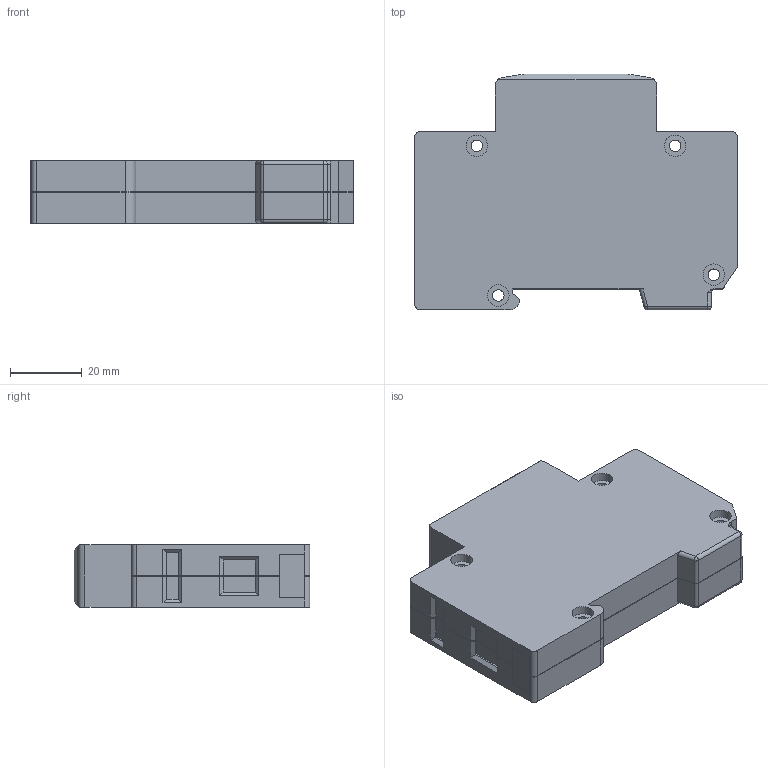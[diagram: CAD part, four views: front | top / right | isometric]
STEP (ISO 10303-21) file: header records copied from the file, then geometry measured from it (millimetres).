
FILE_DESCRIPTION(/* description */ (''),/* implementation_level */ '2;1');
FILE_NAME(/* name */ 'K:\PROJEKTY ROZPRACOVANÉ\MODELY DO KATALOGU\HSA, HLSA 24520, 10007\3D - STEP\HLSA.stp',/* time_stamp */ '2020-03-17T07:35:19+01:00',/* author */ ('M Koliska'),/* organization */ (''),/* preprocessor_version */ 'ST-DEVELOPER v18',/* originating_system */ 'Autodesk Inventor 2020',/* authorisation */ '');
FILE_SCHEMA (('AUTOMOTIVE_DESIGN { 1 0 10303 214 3 1 1 }'));
Length unit declared in the file: millimetre
Products named in the file (3): HLSA; HLSA_1; DIN 7985 (H) - M5x6-H
Assembly tree (3 placements, depth 2):
  HLSA
    HLSA_1
    DIN 7985 (H) - M5x6-H  x2
Bounding box: 90 x 65.8 x 17.5 mm (x, y, z)
Volume: 84250.5 mm3; surface area: 18395 mm2
Topology: 3 solids, 3 shells, 311 faces, 865 edges, 572 vertices
Faces by surface type: plane 218, cylinder 49, cone 34, sphere 6, torus 4
Full cylindrical faces by diameter (mm): 3.2 x4, 4.6 x2, 5 x2, 6 x8
Entity records: 8830 total; most frequent: CARTESIAN_POINT 1595, ORIENTED_EDGE 1516, DIRECTION 1460, EDGE_CURVE 758, LINE 570, VECTOR 570, VERTEX_POINT 500, AXIS2_PLACEMENT_3D 445
